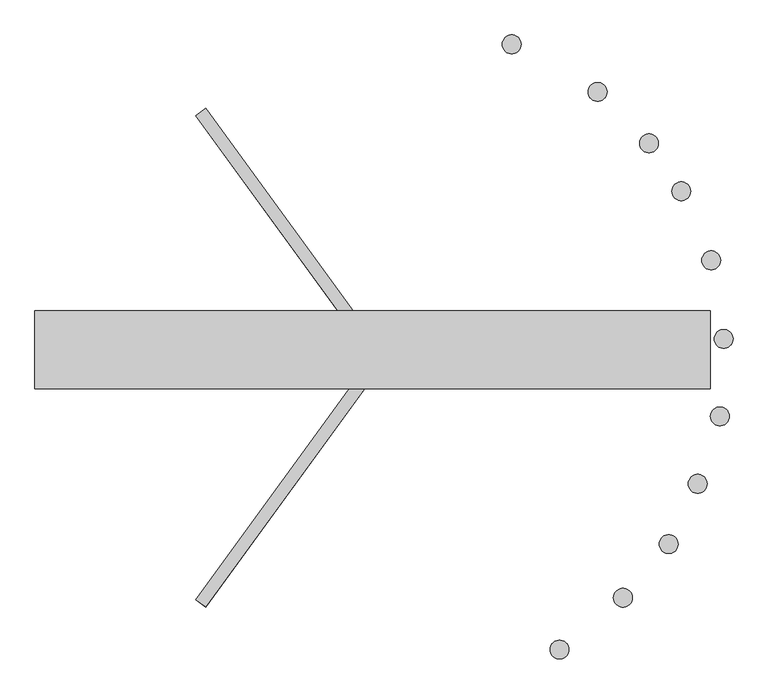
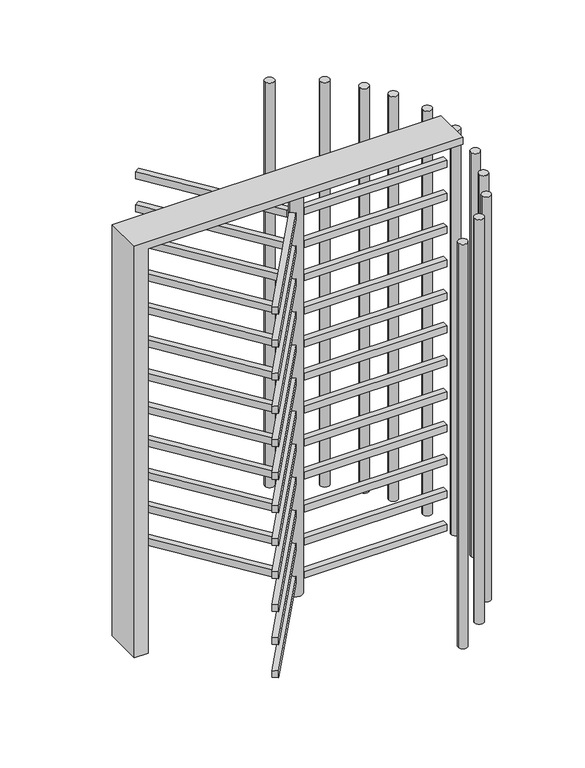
"""IFC4 building model written with IfcOpenShell, lengths in millimetres: proxy geometry, turnstile : turnstile."""

from ifc_helpers import new_model, si_unit, point, frame, frame_2d, origin, origin_with_axes, origin_2d, place, context, project, spatial, polyline, circle_curve, trimmed, segment, composite_curve, outline, extrude, source, transform, mapped, element, save


def generic_models_47eebe91(model_context):
    return source(origin(), model_context, "Body", "SweptSolid", [
        extrude(outline(polyline([(2324.0, -852.6492797), (2324.0, 860.5294565), (2364.0, 860.5294565), (2364.0, -927.821873), (0.0, -927.821873), (0.0, -852.6492797), (2324.0, -852.6492797)])), frame((0.0, -82.9879665, 0.0), z_axis=(0.0, 1.0, 0.0), x_axis=(0.0, 0.0, 1.0)), (0.0, 0.0, 1.0), 206.6801215),
        extrude(outline(composite_curve([segment(trimmed(circle_curve(frame_2d((460.9725717, -772.9840155)), 25.0), [point((435.9725717, -772.9840155))], [point((485.9725717, -772.9840155))], False, "CARTESIAN"), True, "CONTINUOUS"), segment(trimmed(circle_curve(frame_2d((460.9725717, -772.9840155)), 25.0), [point((485.9725717, -772.9840155))], [point((435.9725717, -772.9840155))], False, "CARTESIAN"), True, "CONTINUOUS")], self_intersect=False)), origin_with_axes(), (0.0, 0.0, 1.0), 2324.0),
        extrude(outline(composite_curve([segment(trimmed(circle_curve(frame_2d((628.9226645, -635.77286)), 25.0), [point((603.9226645, -635.77286))], [point((653.9226645, -635.77286))], False, "CARTESIAN"), True, "CONTINUOUS"), segment(trimmed(circle_curve(frame_2d((628.9226645, -635.77286)), 25.0), [point((653.9226645, -635.77286))], [point((603.9226645, -635.77286))], False, "CARTESIAN"), True, "CONTINUOUS")], self_intersect=False)), origin_with_axes(), (0.0, 0.0, 1.0), 2324.0),
        extrude(outline(composite_curve([segment(trimmed(circle_curve(frame_2d((885.5294565, -155.7959038)), 25.0), [point((860.5294565, -155.7959038))], [point((910.5294565, -155.7959038))], False, "CARTESIAN"), True, "CONTINUOUS"), segment(trimmed(circle_curve(frame_2d((885.5294565, -155.7959038)), 25.0), [point((910.5294565, -155.7959038))], [point((860.5294565, -155.7959038))], False, "CARTESIAN"), True, "CONTINUOUS")], self_intersect=False)), origin_with_axes(), (0.0, 0.0, 1.0), 2324.0),
        extrude(outline(composite_curve([segment(trimmed(circle_curve(frame_2d((750.0822235, -493.6717766)), 25.0), [point((725.0822235, -493.6717766))], [point((775.0822235, -493.6717766))], False, "CARTESIAN"), True, "CONTINUOUS"), segment(trimmed(circle_curve(frame_2d((750.0822235, -493.6717766)), 25.0), [point((775.0822235, -493.6717766))], [point((725.0822235, -493.6717766))], False, "CARTESIAN"), True, "CONTINUOUS")], self_intersect=False)), origin_with_axes(), (0.0, 0.0, 1.0), 2324.0),
        extrude(outline(composite_curve([segment(trimmed(circle_curve(frame_2d((826.8150639, -334.3531938)), 25.0), [point((801.8150639, -334.3531938))], [point((851.8150639, -334.3531938))], False, "CARTESIAN"), True, "CONTINUOUS"), segment(trimmed(circle_curve(frame_2d((826.8150639, -334.3531938)), 25.0), [point((851.8150639, -334.3531938))], [point((801.8150639, -334.3531938))], False, "CARTESIAN"), True, "CONTINUOUS")], self_intersect=False)), origin_with_axes(), (0.0, 0.0, 1.0), 2324.0),
        extrude(outline(composite_curve([segment(trimmed(circle_curve(frame_2d((895.5294565, 49.2040962)), 25.0), [point((870.5294565, 49.2040962))], [point((920.5294565, 49.2040962))], False, "CARTESIAN"), True, "CONTINUOUS"), segment(trimmed(circle_curve(frame_2d((895.5294565, 49.2040962)), 25.0), [point((920.5294565, 49.2040962))], [point((870.5294565, 49.2040962))], False, "CARTESIAN"), True, "CONTINUOUS")], self_intersect=False)), origin_with_axes(), (0.0, 0.0, 1.0), 2324.0),
        extrude(outline(composite_curve([segment(trimmed(circle_curve(frame_2d((862.4414506, 257.2833929)), 25.0), [point((837.4414506, 257.2833929))], [point((887.4414506, 257.2833929))], False, "CARTESIAN"), True, "CONTINUOUS"), segment(trimmed(circle_curve(frame_2d((862.4414506, 257.2833929)), 25.0), [point((887.4414506, 257.2833929))], [point((837.4414506, 257.2833929))], False, "CARTESIAN"), True, "CONTINUOUS")], self_intersect=False)), origin_with_axes(), (0.0, 0.0, 1.0), 2324.0),
        extrude(outline(composite_curve([segment(trimmed(circle_curve(frame_2d((783.3167991, 440.405217)), 25.0), [point((758.3167991, 440.405217))], [point((808.3167991, 440.405217))], False, "CARTESIAN"), True, "CONTINUOUS"), segment(trimmed(circle_curve(frame_2d((783.3167991, 440.405217)), 25.0), [point((808.3167991, 440.405217))], [point((758.3167991, 440.405217))], False, "CARTESIAN"), True, "CONTINUOUS")], self_intersect=False)), origin_with_axes(), (0.0, 0.0, 1.0), 2324.0),
        extrude(outline(composite_curve([segment(trimmed(circle_curve(frame_2d((697.9319133, 566.9935159)), 25.0), [point((672.9319133, 566.9935159))], [point((722.9319133, 566.9935159))], False, "CARTESIAN"), True, "CONTINUOUS"), segment(trimmed(circle_curve(frame_2d((697.9319133, 566.9935159)), 25.0), [point((722.9319133, 566.9935159))], [point((672.9319133, 566.9935159))], False, "CARTESIAN"), True, "CONTINUOUS")], self_intersect=False)), origin_with_axes(), (0.0, 0.0, 1.0), 2324.0),
        extrude(outline(composite_curve([segment(trimmed(circle_curve(frame_2d((561.8163093, 703.10912)), 25.0), [point((536.8163093, 703.10912))], [point((586.8163093, 703.10912))], False, "CARTESIAN"), True, "CONTINUOUS"), segment(trimmed(circle_curve(frame_2d((561.8163093, 703.10912)), 25.0), [point((586.8163093, 703.10912))], [point((536.8163093, 703.10912))], False, "CARTESIAN"), True, "CONTINUOUS")], self_intersect=False)), origin_with_axes(), (0.0, 0.0, 1.0), 2324.0),
        extrude(outline(composite_curve([segment(trimmed(circle_curve(frame_2d((334.4151854, 829.1596213)), 25.0), [point((309.4151854, 829.1596213))], [point((359.4151854, 829.1596213))], False, "CARTESIAN"), True, "CONTINUOUS"), segment(trimmed(circle_curve(frame_2d((334.4151854, 829.1596213)), 25.0), [point((359.4151854, 829.1596213))], [point((309.4151854, 829.1596213))], False, "CARTESIAN"), True, "CONTINUOUS")], self_intersect=False)), origin_with_axes(), (0.0, 0.0, 1.0), 2324.0),
        extrude(outline(polyline([(-43.3122543, -9.6200855), (-16.6877457, -28.9639233), (-475.1602425, -659.9971789), (-501.7847511, -640.6533411), (-43.3122543, -9.6200855)])), frame((0.0, 0.0, 2165.1291717), z_axis=(0.0, 0.0, 1.0), x_axis=(1.0, 0.0, 0.0)), (0.0, 0.0, 1.0), 40.0),
        extrude(outline(polyline([(-43.3122543, -9.6200855), (-16.6877457, -28.9639233), (-475.1602425, -659.9971789), (-501.7847511, -640.6533411), (-43.3122543, -9.6200855)])), frame((0.0, 0.0, 1975.1291717), z_axis=(0.0, 0.0, 1.0), x_axis=(1.0, 0.0, 0.0)), (0.0, 0.0, 1.0), 40.0),
        extrude(outline(polyline([(-43.3122543, -9.6200855), (-16.6877457, -28.9639233), (-475.1602425, -659.9971789), (-501.7847511, -640.6533411), (-43.3122543, -9.6200855)])), frame((0.0, 0.0, 1785.1291717), z_axis=(0.0, 0.0, 1.0), x_axis=(1.0, 0.0, 0.0)), (0.0, 0.0, 1.0), 40.0),
        extrude(outline(polyline([(-43.3122543, -9.6200855), (-16.6877457, -28.9639233), (-475.1602425, -659.9971789), (-501.7847511, -640.6533411), (-43.3122543, -9.6200855)])), frame((0.0, 0.0, 1595.1291717), z_axis=(0.0, 0.0, 1.0), x_axis=(1.0, 0.0, 0.0)), (0.0, 0.0, 1.0), 40.0),
        extrude(outline(polyline([(-43.3122543, -9.6200855), (-16.6877457, -28.9639233), (-475.1602425, -659.9971789), (-501.7847511, -640.6533411), (-43.3122543, -9.6200855)])), frame((0.0, 0.0, 1405.1291717), z_axis=(0.0, 0.0, 1.0), x_axis=(1.0, 0.0, 0.0)), (0.0, 0.0, 1.0), 40.0),
        extrude(outline(polyline([(-43.3122543, -9.6200855), (-16.6877457, -28.9639233), (-475.1602425, -659.9971789), (-501.7847511, -640.6533411), (-43.3122543, -9.6200855)])), frame((0.0, 0.0, 1215.1291717), z_axis=(0.0, 0.0, 1.0), x_axis=(1.0, 0.0, 0.0)), (0.0, 0.0, 1.0), 40.0),
        extrude(outline(polyline([(-43.3122543, -9.6200855), (-16.6877457, -28.9639233), (-475.1602425, -659.9971789), (-501.7847511, -640.6533411), (-43.3122543, -9.6200855)])), frame((0.0, 0.0, 1025.1291717), z_axis=(0.0, 0.0, 1.0), x_axis=(1.0, 0.0, 0.0)), (0.0, 0.0, 1.0), 40.0),
        extrude(outline(polyline([(-43.3122543, -9.6200855), (-16.6877457, -28.9639233), (-475.1602425, -659.9971789), (-501.7847511, -640.6533411), (-43.3122543, -9.6200855)])), frame((0.0, 0.0, 835.1291717), z_axis=(0.0, 0.0, 1.0), x_axis=(1.0, 0.0, 0.0)), (0.0, 0.0, 1.0), 40.0),
        extrude(outline(polyline([(-43.3122543, -9.6200855), (-16.6877457, -28.9639233), (-475.1602425, -659.9971789), (-501.7847511, -640.6533411), (-43.3122543, -9.6200855)])), frame((0.0, 0.0, 645.1291717), z_axis=(0.0, 0.0, 1.0), x_axis=(1.0, 0.0, 0.0)), (0.0, 0.0, 1.0), 40.0),
        extrude(outline(polyline([(-43.3122543, -9.6200855), (-16.6877457, -28.9639233), (-475.1602425, -659.9971789), (-501.7847511, -640.6533411), (-43.3122543, -9.6200855)])), frame((0.0, 0.0, 455.1291717), z_axis=(0.0, 0.0, 1.0), x_axis=(1.0, 0.0, 0.0)), (0.0, 0.0, 1.0), 40.0),
        extrude(outline(polyline([(-43.3122543, -9.6200855), (-16.6877457, -28.9639233), (-475.1602425, -659.9971789), (-501.7847511, -640.6533411), (-43.3122543, -9.6200855)])), frame((0.0, 0.0, 265.1291717), z_axis=(0.0, 0.0, 1.0), x_axis=(1.0, 0.0, 0.0)), (0.0, 0.0, 1.0), 40.0),
        extrude(outline(polyline([(-43.3122543, -9.6200855), (-16.6877457, -28.9639233), (-475.1602425, -659.9971789), (-501.7847511, -640.6533411), (-43.3122543, -9.6200855)])), frame((0.0, 0.0, 75.1291717), z_axis=(0.0, 0.0, 1.0), x_axis=(1.0, 0.0, 0.0)), (0.0, 0.0, 1.0), 40.0),
        extrude(outline(polyline([(-501.7847511, 640.6533411), (-475.1602425, 659.9971789), (-16.6877457, 28.9639233), (-43.3122543, 9.6200855), (-501.7847511, 640.6533411)])), frame((0.0, 0.0, 2165.1291717), z_axis=(0.0, 0.0, 1.0), x_axis=(1.0, 0.0, 0.0)), (0.0, 0.0, 1.0), 40.0),
        extrude(outline(polyline([(-501.7847511, 640.6533411), (-475.1602425, 659.9971789), (-16.6877457, 28.9639233), (-43.3122543, 9.6200855), (-501.7847511, 640.6533411)])), frame((0.0, 0.0, 1975.1291717), z_axis=(0.0, 0.0, 1.0), x_axis=(1.0, 0.0, 0.0)), (0.0, 0.0, 1.0), 40.0),
        extrude(outline(polyline([(-501.7847511, 640.6533411), (-475.1602425, 659.9971789), (-16.6877457, 28.9639233), (-43.3122543, 9.6200855), (-501.7847511, 640.6533411)])), frame((0.0, 0.0, 1785.1291717), z_axis=(0.0, 0.0, 1.0), x_axis=(1.0, 0.0, 0.0)), (0.0, 0.0, 1.0), 40.0),
        extrude(outline(polyline([(-501.7847511, 640.6533411), (-475.1602425, 659.9971789), (-16.6877457, 28.9639233), (-43.3122543, 9.6200855), (-501.7847511, 640.6533411)])), frame((0.0, 0.0, 1595.1291717), z_axis=(0.0, 0.0, 1.0), x_axis=(1.0, 0.0, 0.0)), (0.0, 0.0, 1.0), 40.0),
        extrude(outline(polyline([(-501.7847511, 640.6533411), (-475.1602425, 659.9971789), (-16.6877457, 28.9639233), (-43.3122543, 9.6200855), (-501.7847511, 640.6533411)])), frame((0.0, 0.0, 1405.1291717), z_axis=(0.0, 0.0, 1.0), x_axis=(1.0, 0.0, 0.0)), (0.0, 0.0, 1.0), 40.0),
        extrude(outline(polyline([(-501.7847511, 640.6533411), (-475.1602425, 659.9971789), (-16.6877457, 28.9639233), (-43.3122543, 9.6200855), (-501.7847511, 640.6533411)])), frame((0.0, 0.0, 1215.1291717), z_axis=(0.0, 0.0, 1.0), x_axis=(1.0, 0.0, 0.0)), (0.0, 0.0, 1.0), 40.0),
        extrude(outline(polyline([(-501.7847511, 640.6533411), (-475.1602425, 659.9971789), (-16.6877457, 28.9639233), (-43.3122543, 9.6200855), (-501.7847511, 640.6533411)])), frame((0.0, 0.0, 1025.1291717), z_axis=(0.0, 0.0, 1.0), x_axis=(1.0, 0.0, 0.0)), (0.0, 0.0, 1.0), 40.0),
        extrude(outline(polyline([(-501.7847511, 640.6533411), (-475.1602425, 659.9971789), (-16.6877457, 28.9639233), (-43.3122543, 9.6200855), (-501.7847511, 640.6533411)])), frame((0.0, 0.0, 835.1291717), z_axis=(0.0, 0.0, 1.0), x_axis=(1.0, 0.0, 0.0)), (0.0, 0.0, 1.0), 40.0),
        extrude(outline(polyline([(-501.7847511, 640.6533411), (-475.1602425, 659.9971789), (-16.6877457, 28.9639233), (-43.3122543, 9.6200855), (-501.7847511, 640.6533411)])), frame((0.0, 0.0, 645.1291717), z_axis=(0.0, 0.0, 1.0), x_axis=(1.0, 0.0, 0.0)), (0.0, 0.0, 1.0), 40.0),
        extrude(outline(polyline([(-501.7847511, 640.6533411), (-475.1602425, 659.9971789), (-16.6877457, 28.9639233), (-43.3122543, 9.6200855), (-501.7847511, 640.6533411)])), frame((0.0, 0.0, 455.1291717), z_axis=(0.0, 0.0, 1.0), x_axis=(1.0, 0.0, 0.0)), (0.0, 0.0, 1.0), 40.0),
        extrude(outline(polyline([(-501.7847511, 640.6533411), (-475.1602425, 659.9971789), (-16.6877457, 28.9639233), (-43.3122543, 9.6200855), (-501.7847511, 640.6533411)])), frame((0.0, 0.0, 265.1291717), z_axis=(0.0, 0.0, 1.0), x_axis=(1.0, 0.0, 0.0)), (0.0, 0.0, 1.0), 40.0),
        extrude(outline(polyline([(-501.7847511, 640.6533411), (-475.1602425, 659.9971789), (-16.6877457, 28.9639233), (-43.3122543, 9.6200855), (-501.7847511, 640.6533411)])), frame((0.0, 0.0, 75.1291717), z_axis=(0.0, 0.0, 1.0), x_axis=(1.0, 0.0, 0.0)), (0.0, 0.0, 1.0), 40.0),
        extrude(outline(polyline([(815.0, 20.7468557), (815.0, -12.1628469), (35.0, -12.1628469), (35.0, 20.7468557), (815.0, 20.7468557)])), frame((0.0, 0.0, 2165.1291717), z_axis=(0.0, 0.0, 1.0), x_axis=(1.0, 0.0, 0.0)), (0.0, 0.0, 1.0), 40.0),
        extrude(outline(polyline([(815.0, 20.7468557), (815.0, -12.1628469), (35.0, -12.1628469), (35.0, 20.7468557), (815.0, 20.7468557)])), frame((0.0, 0.0, 1975.1291717), z_axis=(0.0, 0.0, 1.0), x_axis=(1.0, 0.0, 0.0)), (0.0, 0.0, 1.0), 40.0),
        extrude(outline(polyline([(815.0, 20.7468557), (815.0, -12.1628469), (35.0, -12.1628469), (35.0, 20.7468557), (815.0, 20.7468557)])), frame((0.0, 0.0, 1785.1291717), z_axis=(0.0, 0.0, 1.0), x_axis=(1.0, 0.0, 0.0)), (0.0, 0.0, 1.0), 40.0),
        extrude(outline(polyline([(815.0, 20.7468557), (815.0, -12.1628469), (35.0, -12.1628469), (35.0, 20.7468557), (815.0, 20.7468557)])), frame((0.0, 0.0, 1595.1291717), z_axis=(0.0, 0.0, 1.0), x_axis=(1.0, 0.0, 0.0)), (0.0, 0.0, 1.0), 40.0),
        extrude(outline(polyline([(815.0, 20.7468557), (815.0, -12.1628469), (35.0, -12.1628469), (35.0, 20.7468557), (815.0, 20.7468557)])), frame((0.0, 0.0, 1405.1291717), z_axis=(0.0, 0.0, 1.0), x_axis=(1.0, 0.0, 0.0)), (0.0, 0.0, 1.0), 40.0),
        extrude(outline(polyline([(815.0, 20.7468557), (815.0, -12.1628469), (35.0, -12.1628469), (35.0, 20.7468557), (815.0, 20.7468557)])), frame((0.0, 0.0, 1215.1291717), z_axis=(0.0, 0.0, 1.0), x_axis=(1.0, 0.0, 0.0)), (0.0, 0.0, 1.0), 40.0),
        extrude(outline(polyline([(815.0, 20.7468557), (815.0, -12.1628469), (35.0, -12.1628469), (35.0, 20.7468557), (815.0, 20.7468557)])), frame((0.0, 0.0, 1025.1291717), z_axis=(0.0, 0.0, 1.0), x_axis=(1.0, 0.0, 0.0)), (0.0, 0.0, 1.0), 40.0),
        extrude(outline(polyline([(815.0, 20.7468557), (815.0, -12.1628469), (35.0, -12.1628469), (35.0, 20.7468557), (815.0, 20.7468557)])), frame((0.0, 0.0, 835.1291717), z_axis=(0.0, 0.0, 1.0), x_axis=(1.0, 0.0, 0.0)), (0.0, 0.0, 1.0), 40.0),
        extrude(outline(polyline([(815.0, 20.7468557), (815.0, -12.1628469), (35.0, -12.1628469), (35.0, 20.7468557), (815.0, 20.7468557)])), frame((0.0, 0.0, 645.1291717), z_axis=(0.0, 0.0, 1.0), x_axis=(1.0, 0.0, 0.0)), (0.0, 0.0, 1.0), 40.0),
        extrude(outline(polyline([(815.0, 20.7468557), (815.0, -12.1628469), (35.0, -12.1628469), (35.0, 20.7468557), (815.0, 20.7468557)])), frame((0.0, 0.0, 455.1291717), z_axis=(0.0, 0.0, 1.0), x_axis=(1.0, 0.0, 0.0)), (0.0, 0.0, 1.0), 40.0),
        extrude(outline(polyline([(815.0, 20.7468557), (815.0, -12.1628469), (35.0, -12.1628469), (35.0, 20.7468557), (815.0, 20.7468557)])), frame((0.0, 0.0, 265.1291717), z_axis=(0.0, 0.0, 1.0), x_axis=(1.0, 0.0, 0.0)), (0.0, 0.0, 1.0), 40.0),
        extrude(outline(polyline([(815.0, 20.7468557), (815.0, -12.1628469), (35.0, -12.1628469), (35.0, 20.7468557), (815.0, 20.7468557)])), frame((0.0, 0.0, 75.1291717), z_axis=(0.0, 0.0, 1.0), x_axis=(1.0, 0.0, 0.0)), (0.0, 0.0, 1.0), 40.0),
        extrude(outline(composite_curve([segment(trimmed(circle_curve(origin_2d(), 35.0), [point((-35.0, 0.0))], [point((35.0, 0.0))], False, "CARTESIAN"), True, "CONTINUOUS"), segment(trimmed(circle_curve(origin_2d(), 35.0), [point((35.0, 0.0))], [point((-35.0, 0.0))], False, "CARTESIAN"), True, "CONTINUOUS")], self_intersect=False)), origin_with_axes(), (0.0, 0.0, 1.0), 2324.0),
    ])


if __name__ == "__main__":
    model = new_model("IFC4")
    model_context = context("Model", 3, world=origin())
    ifc_project = project(units=[si_unit("LENGTHUNIT", "METRE", prefix="MILLI")], contexts=[model_context])
    site = spatial("IfcSite", under=ifc_project)
    building = spatial("IfcBuilding", under=site)
    placement = place(None, origin())
    generic_models_shape = generic_models_47eebe91(model_context)
    element("IfcBuildingElementProxy", 1, Name="turnstile : turnstile", ObjectType="turnstile : turnstile", at=placement, inside=building, context=model_context, shape_type="MappedRepresentation", body=[
        mapped(generic_models_shape, transform((0.0, 0.0, 0.0), x_axis=(1.0, 0.0, 0.0), y_axis=(0.0, 1.0, 0.0), z_axis=(0.0, 0.0, 1.0))),
    ])
    save(model, "model.ifc")
